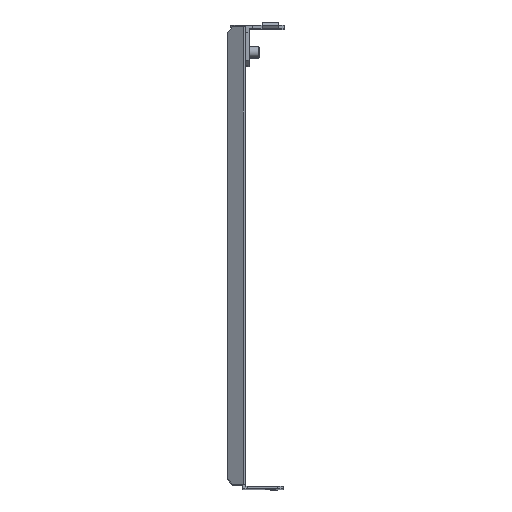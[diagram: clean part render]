
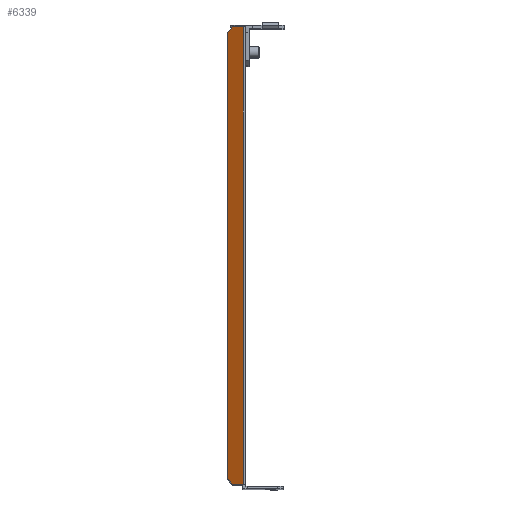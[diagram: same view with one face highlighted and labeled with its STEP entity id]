
A CAD part, top view. The second image highlights one B-rep face of the part: STEP entity #6339.
In plain terms, the highlighted planar face has unit normal (-0.5, 0, 0.866).
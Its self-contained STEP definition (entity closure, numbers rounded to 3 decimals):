
#294 = VECTOR ( 'NONE', #13140, 1000. ) ;
#514 = CARTESIAN_POINT ( 'NONE',  ( -5.25, 0., 197.215 ) ) ;
#817 = VERTEX_POINT ( 'NONE', #514 ) ;
#818 = VECTOR ( 'NONE', #8942, 1000. ) ;
#951 = EDGE_LOOP ( 'NONE', ( #8588, #7164, #5496, #10776, #3348, #10410, #992, #2260 ) ) ;
#992 = ORIENTED_EDGE ( 'NONE', *, *, #3864, .T. ) ;
#1593 = EDGE_CURVE ( 'NONE', #4412, #3111, #6781, .T. ) ;
#1866 = DIRECTION ( 'NONE',  ( -0.612, -0.707, -0.354 ) ) ;
#2059 = CARTESIAN_POINT ( 'NONE',  ( -11.026, 245., 193.88 ) ) ;
#2260 = ORIENTED_EDGE ( 'NONE', *, *, #12239, .T. ) ;
#2395 = CARTESIAN_POINT ( 'NONE',  ( -85.959, 0., 150.618 ) ) ;
#2518 = DIRECTION ( 'NONE',  ( 0.5, 0., -0.866 ) ) ;
#2716 = VECTOR ( 'NONE', #1866, 1000. ) ;
#2787 = CARTESIAN_POINT ( 'NONE',  ( -85.959, 248., 150.618 ) ) ;
#2906 = EDGE_CURVE ( 'NONE', #10454, #4412, #6772, .T. ) ;
#2916 = DIRECTION ( 'NONE',  ( 0.866, 0., 0.5 ) ) ;
#3008 = VECTOR ( 'NONE', #6316, 1000. ) ;
#3111 = VERTEX_POINT ( 'NONE', #2059 ) ;
#3222 = EDGE_CURVE ( 'NONE', #9704, #10425, #9815, .T. ) ;
#3348 = ORIENTED_EDGE ( 'NONE', *, *, #1593, .T. ) ;
#3735 = LINE ( 'NONE', #7996, #294 ) ;
#3842 = CARTESIAN_POINT ( 'NONE',  ( -85.959, 0., 150.618 ) ) ;
#3864 = EDGE_CURVE ( 'NONE', #13153, #9568, #3735, .T. ) ;
#4412 = VERTEX_POINT ( 'NONE', #10322 ) ;
#5450 = LINE ( 'NONE', #11653, #3008 ) ;
#5496 = ORIENTED_EDGE ( 'NONE', *, *, #8428, .F. ) ;
#5967 = LINE ( 'NONE', #6042, #7465 ) ;
#6042 = CARTESIAN_POINT ( 'NONE',  ( -85.959, 248., 150.618 ) ) ;
#6316 = DIRECTION ( 'NONE',  ( 0., -1., 0. ) ) ;
#6339 = ADVANCED_FACE ( 'NONE', ( #9579 ), #11520, .F. ) ;
#6644 = DIRECTION ( 'NONE',  ( 0.866, 0., 0.5 ) ) ;
#6772 = LINE ( 'NONE', #2787, #9975 ) ;
#6781 = LINE ( 'NONE', #9053, #2716 ) ;
#6852 = EDGE_CURVE ( 'NONE', #817, #9704, #11217, .T. ) ;
#7164 = ORIENTED_EDGE ( 'NONE', *, *, #3222, .T. ) ;
#7465 = VECTOR ( 'NONE', #2916, 1000. ) ;
#7608 = DIRECTION ( 'NONE',  ( 0., 1., 0. ) ) ;
#7840 = CARTESIAN_POINT ( 'NONE',  ( -8.428, 0., 195.38 ) ) ;
#7996 = CARTESIAN_POINT ( 'NONE',  ( -8.428, 0., 195.38 ) ) ;
#8428 = EDGE_CURVE ( 'NONE', #10454, #10425, #5967, .T. ) ;
#8588 = ORIENTED_EDGE ( 'NONE', *, *, #6852, .T. ) ;
#8846 = LINE ( 'NONE', #3842, #9605 ) ;
#8942 = DIRECTION ( 'NONE',  ( 0.866, 0., 0.5 ) ) ;
#9053 = CARTESIAN_POINT ( 'NONE',  ( -11.026, 245., 193.88 ) ) ;
#9568 = VERTEX_POINT ( 'NONE', #7840 ) ;
#9579 = FACE_OUTER_BOUND ( 'NONE', #951, .T. ) ;
#9605 = VECTOR ( 'NONE', #6644, 1000. ) ;
#9704 = VERTEX_POINT ( 'NONE', #10047 ) ;
#9815 = LINE ( 'NONE', #12624, #11660 ) ;
#9975 = VECTOR ( 'NONE', #12054, 1000. ) ;
#10047 = CARTESIAN_POINT ( 'NONE',  ( -2.768, 0., 198.648 ) ) ;
#10151 = CARTESIAN_POINT ( 'NONE',  ( -5.25, 0., 197.215 ) ) ;
#10322 = CARTESIAN_POINT ( 'NONE',  ( -8.428, 248., 195.38 ) ) ;
#10410 = ORIENTED_EDGE ( 'NONE', *, *, #12086, .T. ) ;
#10425 = VERTEX_POINT ( 'NONE', #12270 ) ;
#10454 = VERTEX_POINT ( 'NONE', #10948 ) ;
#10776 = ORIENTED_EDGE ( 'NONE', *, *, #2906, .T. ) ;
#10948 = CARTESIAN_POINT ( 'NONE',  ( -5.25, 248., 197.215 ) ) ;
#11001 = AXIS2_PLACEMENT_3D ( 'NONE', #2395, #2518, #12583 ) ;
#11112 = CARTESIAN_POINT ( 'NONE',  ( -11.026, 3., 193.88 ) ) ;
#11217 = LINE ( 'NONE', #10151, #818 ) ;
#11520 = PLANE ( 'NONE',  #11001 ) ;
#11653 = CARTESIAN_POINT ( 'NONE',  ( -11.026, 0., 193.88 ) ) ;
#11660 = VECTOR ( 'NONE', #7608, 1000. ) ;
#12054 = DIRECTION ( 'NONE',  ( -0.866, 0., -0.5 ) ) ;
#12086 = EDGE_CURVE ( 'NONE', #3111, #13153, #5450, .T. ) ;
#12239 = EDGE_CURVE ( 'NONE', #9568, #817, #8846, .T. ) ;
#12270 = CARTESIAN_POINT ( 'NONE',  ( -2.768, 248., 198.648 ) ) ;
#12583 = DIRECTION ( 'NONE',  ( 0., -1., 0. ) ) ;
#12624 = CARTESIAN_POINT ( 'NONE',  ( -2.768, 0., 198.648 ) ) ;
#13140 = DIRECTION ( 'NONE',  ( 0.612, -0.707, 0.354 ) ) ;
#13153 = VERTEX_POINT ( 'NONE', #11112 ) ;
